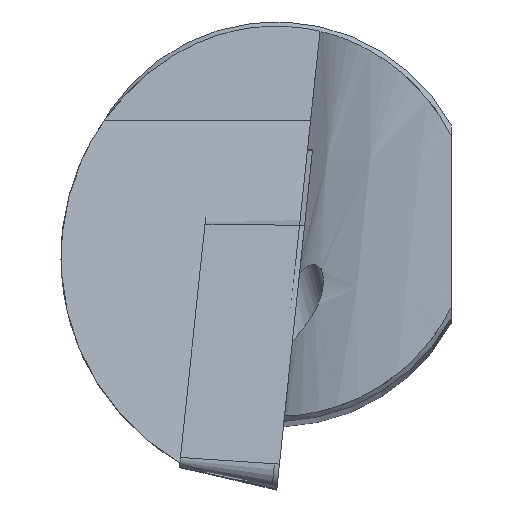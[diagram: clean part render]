
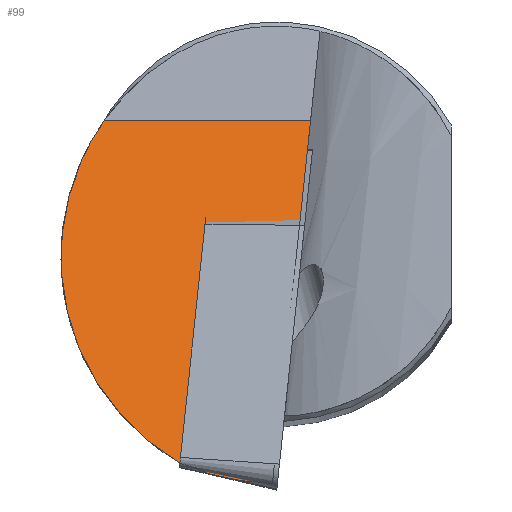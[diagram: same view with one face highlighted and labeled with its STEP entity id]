
A CAD part, top view. The second image highlights one B-rep face of the part: STEP entity #99.
In plain terms, the highlighted planar face has unit normal (0, 0.301, 0.954).
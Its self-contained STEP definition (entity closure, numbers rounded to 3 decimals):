
#37=ELLIPSE('',#426,10.085,9.576);
#38=ELLIPSE('',#428,9.98,9.518);
#99=ADVANCED_FACE('',(#134),#119,.F.);
#119=PLANE('',#429);
#134=FACE_OUTER_BOUND('',#153,.T.);
#153=EDGE_LOOP('',(#211,#212,#213,#214));
#211=ORIENTED_EDGE('',*,*,#331,.T.);
#212=ORIENTED_EDGE('',*,*,#332,.F.);
#213=ORIENTED_EDGE('',*,*,#333,.T.);
#214=ORIENTED_EDGE('',*,*,#334,.F.);
#288=VERTEX_POINT('',#605);
#290=VERTEX_POINT('',#612);
#291=VERTEX_POINT('',#616);
#292=VERTEX_POINT('',#618);
#331=EDGE_CURVE('',#288,#290,#37,.T.);
#332=EDGE_CURVE('',#291,#290,#376,.T.);
#333=EDGE_CURVE('',#291,#292,#377,.T.);
#334=EDGE_CURVE('',#288,#292,#38,.T.);
#376=LINE('',#615,#401);
#377=LINE('',#617,#402);
#401=VECTOR('',#498,1.);
#402=VECTOR('',#499,1.);
#426=AXIS2_PLACEMENT_3D('',#613,#494,#495);
#428=AXIS2_PLACEMENT_3D('',#619,#500,#501);
#429=AXIS2_PLACEMENT_3D('',#620,#502,#503);
#494=DIRECTION('',(0.,0.301,0.954));
#495=DIRECTION('',(0.,-0.954,0.301));
#498=DIRECTION('',(-0.1,-0.949,0.299));
#499=DIRECTION('',(-1.,0.,0.));
#500=DIRECTION('',(0.,-0.301,-0.954));
#501=DIRECTION('',(0.,-0.954,0.301));
#502=DIRECTION('',(0.,-0.301,-0.954));
#503=DIRECTION('',(0.,0.954,-0.301));
#605=CARTESIAN_POINT('',(-3.856,-9.706,-0.189));
#612=CARTESIAN_POINT('',(-0.15,-10.519,0.067));
#613=CARTESIAN_POINT('',(0.,-0.902,-2.965));
#615=CARTESIAN_POINT('',(0.316,-6.081,-1.332));
#616=CARTESIAN_POINT('',(1.376,4.,-4.511));
#617=CARTESIAN_POINT('',(-10.5,4.,-4.511));
#618=CARTESIAN_POINT('',(-6.893,4.,-4.511));
#619=CARTESIAN_POINT('',(0.902,-1.462,-2.788));
#620=CARTESIAN_POINT('',(-10.5,-10.306,0.));
